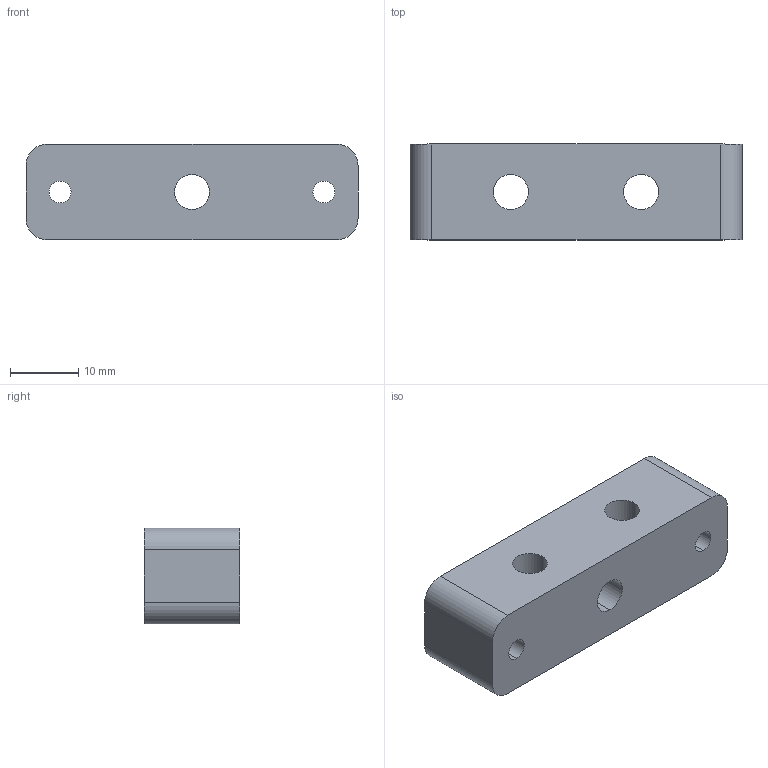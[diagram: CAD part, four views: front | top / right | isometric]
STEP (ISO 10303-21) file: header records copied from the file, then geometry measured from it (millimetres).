
FILE_DESCRIPTION (( 'STEP AP203' ), '1' );
FILE_NAME ('BKT-7K-02.STEP', '2024-11-21T16:19:40', ( '' ), ( '' ), 'SwSTEP 2.0', 'SolidWorks 2023', '' );
FILE_SCHEMA (( 'CONFIG_CONTROL_DESIGN' ));
Length unit declared in the file: millimetre
Products named in the file (1): BKT-7K-02
Bounding box: 48.5 x 14 x 14 mm (x, y, z)
Volume: 7935.3 mm3; surface area: 3964.8 mm2
Topology: 1 solids, 1 shells, 26 faces, 66 edges, 44 vertices
Faces by surface type: cylinder 18, plane 8
Entity records: 903 total; most frequent: DIRECTION 156, CARTESIAN_POINT 137, ORIENTED_EDGE 132, EDGE_CURVE 66, AXIS2_PLACEMENT_3D 63, VERTEX_POINT 44, EDGE_LOOP 38, CIRCLE 36
